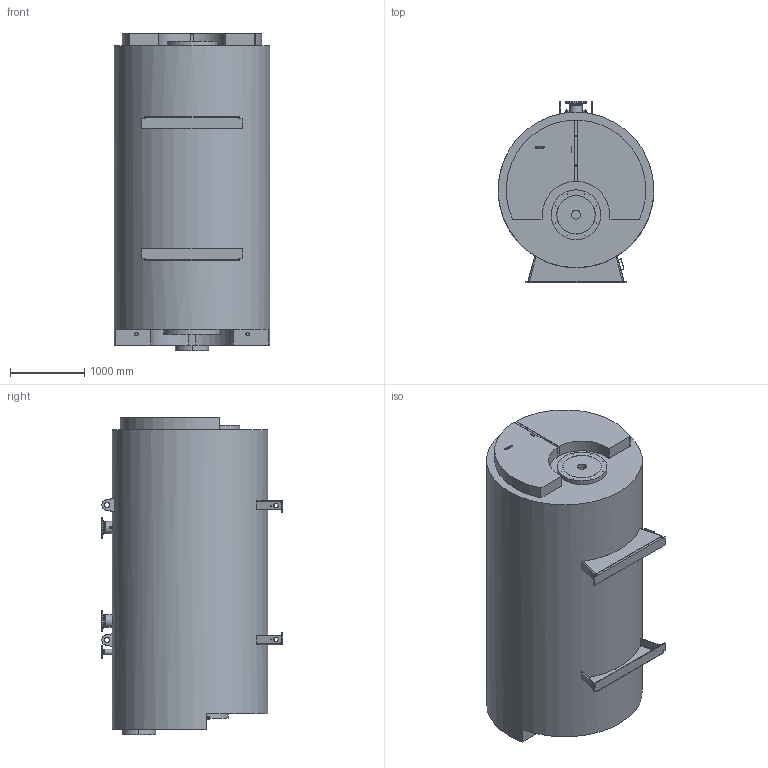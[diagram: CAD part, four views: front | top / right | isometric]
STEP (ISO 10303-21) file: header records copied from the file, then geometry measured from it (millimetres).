
FILE_DESCRIPTION(('TFLEX Exchange Step'),'2;1');
FILE_NAME('M62D002_RD_7550648_H001.stp', '2024-08-06T16:37:02+03:00',('kort'),('Unknown organisation'),'TFLEX Exchange 2024.2','T-FLEX CAD','Unknown authorisation');
FILE_SCHEMA( ('AP242_MANAGED_MODEL_BASED_3D_ENGINEERING_MIM_LF {1 0 10303 442 1 1 4 }') );
Length unit declared in the file: millimetre
Products named in the file (1): 7550648_Grundkessel M62D002 RD_H001
Bounding box: 2094 x 2440 x 4264.2 mm (x, y, z)
Volume: 13835490942.9 mm3; surface area: 37882263 mm2
Topology: 27 solids, 35 shells, 630 faces, 1585 edges, 1078 vertices
Faces by surface type: plane 346, cylinder 168, bspline 98, torus 10, cone 8
Full cylindrical faces by diameter (mm): 2.2 x4, 3.2 x4, 3.3 x4, 4 x4, 6.5 x4, 10.3 x8, 12 x2, 13 x6, 18 x6, 18.63 x2, 22 x16, 27 x2, 41.3 x2, 47.803 x2, 48.3 x2, 60 x4, 67.1 x1, 70 x2, 70.3 x1, 76.1 x2, 120 x1, 122 x1, 152.3 x2, 159.3 x2, 168.3 x2, 185 x1, 212 x2, 215 x2, 285 x2, 670 x1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
Entity records: 28645 total; most frequent: CARTESIAN_POINT 13211, ORIENTED_EDGE 3170, DIRECTION 2845, EDGE_CURVE 1585, VERTEX_POINT 1078, AXIS2_PLACEMENT_3D 974, VECTOR 897, LINE 897
